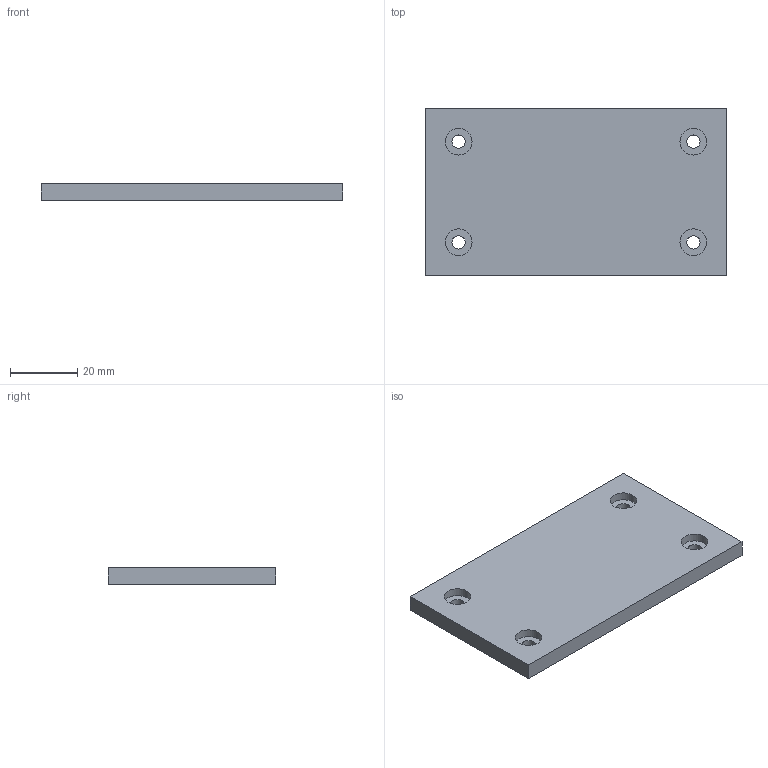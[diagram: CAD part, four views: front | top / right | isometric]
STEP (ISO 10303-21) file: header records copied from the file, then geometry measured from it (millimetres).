
FILE_DESCRIPTION(('Open CASCADE Model'),'2;1');
FILE_NAME('Open CASCADE Shape Model','2026-09-05T12:24:23',('Author'),( 'Open CASCADE'),'Open CASCADE STEP processor 7.8','build123d', 'Unknown');
FILE_SCHEMA(('AUTOMOTIVE_DESIGN { 1 0 10303 214 1 1 1 1 }'));
Length unit declared in the file: millimetre
Products named in the file (1): COMPOUND
Bounding box: 90 x 50 x 5 mm (x, y, z)
Volume: 21871.7 mm3; surface area: 10676.5 mm2
Topology: 1 solids, 1 shells, 18 faces, 36 edges, 24 vertices
Faces by surface type: plane 10, cylinder 8
Full cylindrical faces by diameter (mm): 4 x4, 8 x4
Entity records: 970 total; most frequent: DIRECTION 162, CARTESIAN_POINT 151, LINE 76, VECTOR 76, ORIENTED_EDGE 72, PCURVE 72, DEFINITIONAL_REPRESENTATION 72, EDGE_CURVE 36
